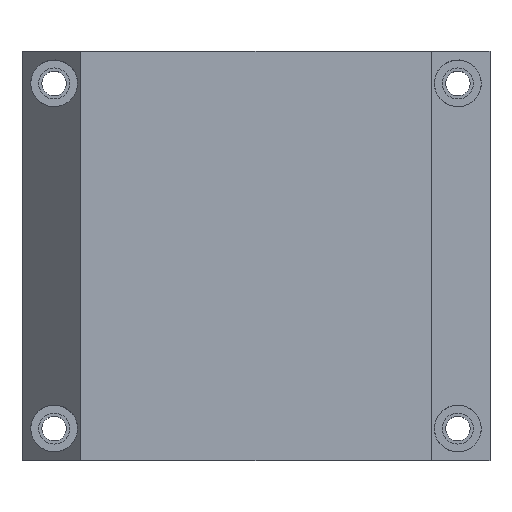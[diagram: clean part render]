
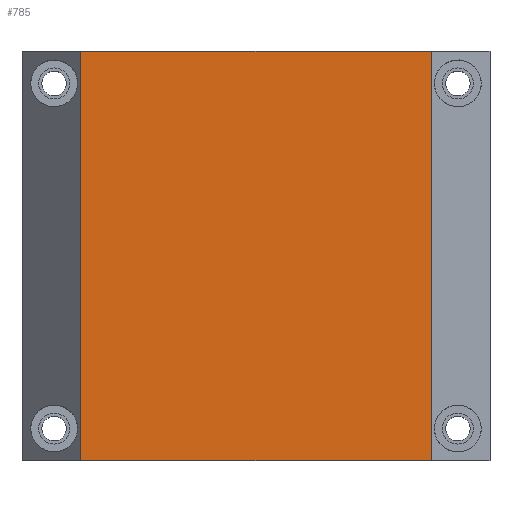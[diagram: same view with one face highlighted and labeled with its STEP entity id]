
A CAD part, top view. The second image highlights one B-rep face of the part: STEP entity #785.
In plain terms, the highlighted planar face has unit normal (0, 0, 1).
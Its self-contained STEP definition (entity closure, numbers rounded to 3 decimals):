
#49 = VECTOR ( 'NONE', #1249, 1000. ) ;
#86 = CARTESIAN_POINT ( 'NONE',  ( 29.931, 35., 15. ) ) ;
#218 = CARTESIAN_POINT ( 'NONE',  ( -40., 35., 15. ) ) ;
#261 = CARTESIAN_POINT ( 'NONE',  ( 29.931, 35., 15. ) ) ;
#281 = EDGE_CURVE ( 'NONE', #726, #1446, #548, .T. ) ;
#502 = VECTOR ( 'NONE', #919, 1000. ) ;
#512 = DIRECTION ( 'NONE',  ( -1., 0., 0. ) ) ;
#548 = LINE ( 'NONE', #86, #49 ) ;
#634 = CARTESIAN_POINT ( 'NONE',  ( -29.931, 35., 15. ) ) ;
#642 = ORIENTED_EDGE ( 'NONE', *, *, #1191, .T. ) ;
#650 = VERTEX_POINT ( 'NONE', #634 ) ;
#673 = CARTESIAN_POINT ( 'NONE',  ( 29.931, -35., 15. ) ) ;
#706 = AXIS2_PLACEMENT_3D ( 'NONE', #1794, #1376, #815 ) ;
#724 = ORIENTED_EDGE ( 'NONE', *, *, #762, .T. ) ;
#726 = VERTEX_POINT ( 'NONE', #673 ) ;
#762 = EDGE_CURVE ( 'NONE', #650, #1144, #1658, .T. ) ;
#785 = ADVANCED_FACE ( 'NONE', ( #1071 ), #1222, .T. ) ;
#815 = DIRECTION ( 'NONE',  ( 1., 0., 0. ) ) ;
#919 = DIRECTION ( 'NONE',  ( 0., -1., 0. ) ) ;
#923 = LINE ( 'NONE', #218, #1139 ) ;
#949 = CARTESIAN_POINT ( 'NONE',  ( -29.931, -35., 15. ) ) ;
#1071 = FACE_OUTER_BOUND ( 'NONE', #1715, .T. ) ;
#1085 = CARTESIAN_POINT ( 'NONE',  ( -29.931, -35., 15. ) ) ;
#1139 = VECTOR ( 'NONE', #512, 1000. ) ;
#1144 = VERTEX_POINT ( 'NONE', #1085 ) ;
#1191 = EDGE_CURVE ( 'NONE', #1144, #726, #1426, .T. ) ;
#1203 = VECTOR ( 'NONE', #1541, 1000. ) ;
#1222 = PLANE ( 'NONE',  #706 ) ;
#1249 = DIRECTION ( 'NONE',  ( 0., 1., 0. ) ) ;
#1314 = EDGE_CURVE ( 'NONE', #1446, #650, #923, .T. ) ;
#1376 = DIRECTION ( 'NONE',  ( 0., 0., 1. ) ) ;
#1426 = LINE ( 'NONE', #1557, #1203 ) ;
#1446 = VERTEX_POINT ( 'NONE', #261 ) ;
#1480 = ORIENTED_EDGE ( 'NONE', *, *, #281, .T. ) ;
#1541 = DIRECTION ( 'NONE',  ( 1., 0., 0. ) ) ;
#1557 = CARTESIAN_POINT ( 'NONE',  ( -40., -35., 15. ) ) ;
#1593 = ORIENTED_EDGE ( 'NONE', *, *, #1314, .T. ) ;
#1658 = LINE ( 'NONE', #949, #502 ) ;
#1715 = EDGE_LOOP ( 'NONE', ( #1593, #724, #642, #1480 ) ) ;
#1794 = CARTESIAN_POINT ( 'NONE',  ( 0., 0., 15. ) ) ;
